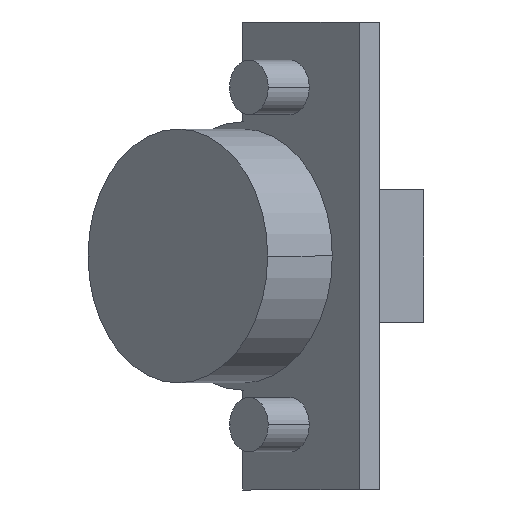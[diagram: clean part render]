
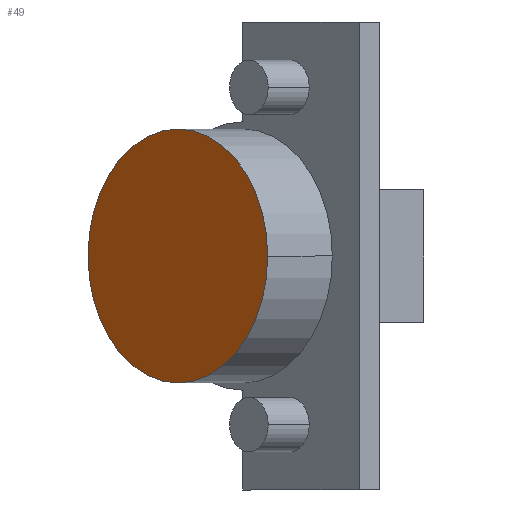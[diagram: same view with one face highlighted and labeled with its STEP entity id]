
A CAD part, front view. The second image highlights one B-rep face of the part: STEP entity #49.
In plain terms, the highlighted planar face has unit normal (-0.707, -0.707, 0).
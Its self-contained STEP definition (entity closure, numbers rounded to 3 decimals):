
#49 = ADVANCED_FACE ( 'NONE', ( #740 ), #1290, .T. ) ;
#89 = EDGE_CURVE ( 'NONE', #1083, #1032, #772, .T. ) ;
#207 = EDGE_CURVE ( 'NONE', #1032, #1083, #987, .T. ) ;
#234 = AXIS2_PLACEMENT_3D ( 'NONE', #1357, #1358, #1359 ) ;
#279 = AXIS2_PLACEMENT_3D ( 'NONE', #1289, #1292, #1293 ) ;
#315 = AXIS2_PLACEMENT_3D ( 'NONE', #1605, #1616, #1617 ) ;
#573 = ORIENTED_EDGE ( 'NONE', *, *, #89, .T. ) ;
#574 = ORIENTED_EDGE ( 'NONE', *, *, #207, .T. ) ;
#661 = EDGE_LOOP ( 'NONE', ( #574, #573 ) ) ;
#740 = FACE_OUTER_BOUND ( 'NONE', #661, .T. ) ;
#772 = CIRCLE ( 'NONE', #234, 17.5 ) ;
#987 = CIRCLE ( 'NONE', #315, 17.5 ) ;
#1032 = VERTEX_POINT ( 'NONE', #1671 ) ;
#1083 = VERTEX_POINT ( 'NONE', #1728 ) ;
#1289 = CARTESIAN_POINT ( 'NONE',  ( 7.69, -8.91, 0. ) ) ;
#1290 = PLANE ( 'NONE',  #279 ) ;
#1292 = DIRECTION ( 'NONE',  ( -0.707, -0.707, 0. ) ) ;
#1293 = DIRECTION ( 'NONE',  ( 0.707, -0.707, 0. ) ) ;
#1357 = CARTESIAN_POINT ( 'NONE',  ( 7.69, -8.91, 0. ) ) ;
#1358 = DIRECTION ( 'NONE',  ( -0.707, -0.707, 0. ) ) ;
#1359 = DIRECTION ( 'NONE',  ( 0.707, -0.707, 0. ) ) ;
#1605 = CARTESIAN_POINT ( 'NONE',  ( 7.69, -8.91, 0. ) ) ;
#1616 = DIRECTION ( 'NONE',  ( -0.707, -0.707, 0. ) ) ;
#1617 = DIRECTION ( 'NONE',  ( 0.707, -0.707, 0. ) ) ;
#1671 = CARTESIAN_POINT ( 'NONE',  ( -4.684, 3.465, 0. ) ) ;
#1728 = CARTESIAN_POINT ( 'NONE',  ( 20.065, -21.284, 0. ) ) ;
